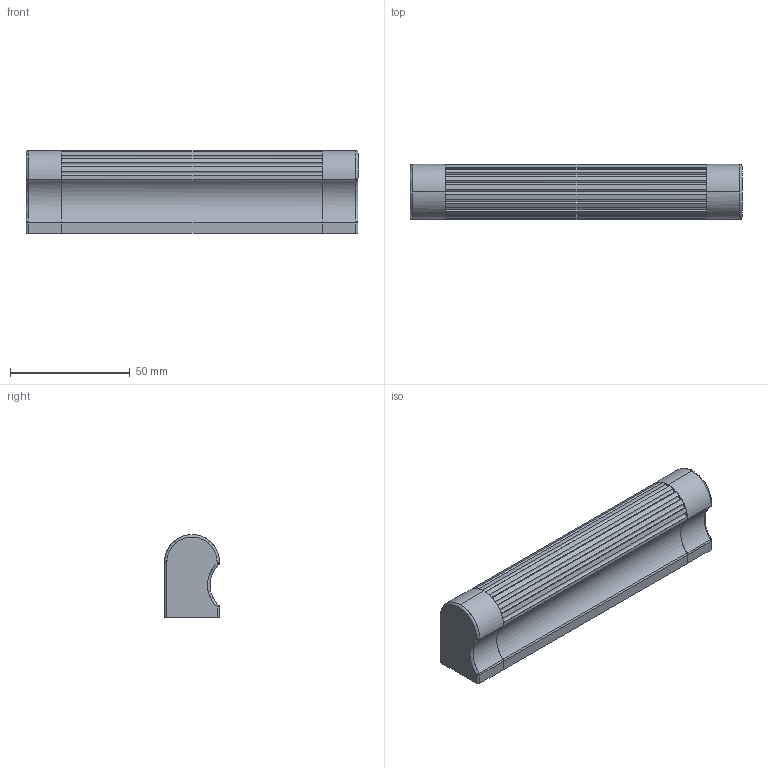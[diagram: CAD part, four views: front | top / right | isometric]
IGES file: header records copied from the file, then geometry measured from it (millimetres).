
Start section: C
Global section: file name: 8018-138.igs; native system: By Siemens PLM Incorporated; preprocessor: XPlus GENERIC/IGES 16.0.42; author: Author; organization: Title; date: 20231214.092858; units: millimetre
Bounding box: 138.8 x 23 x 34.6 mm (x, y, z)
Surface area: 37027.3 mm2 (no closed solid volume)
Topology: 0 solids, 0 shells, 247 faces, 1410 edges, 1410 vertices
Faces by surface type: bspline 247
